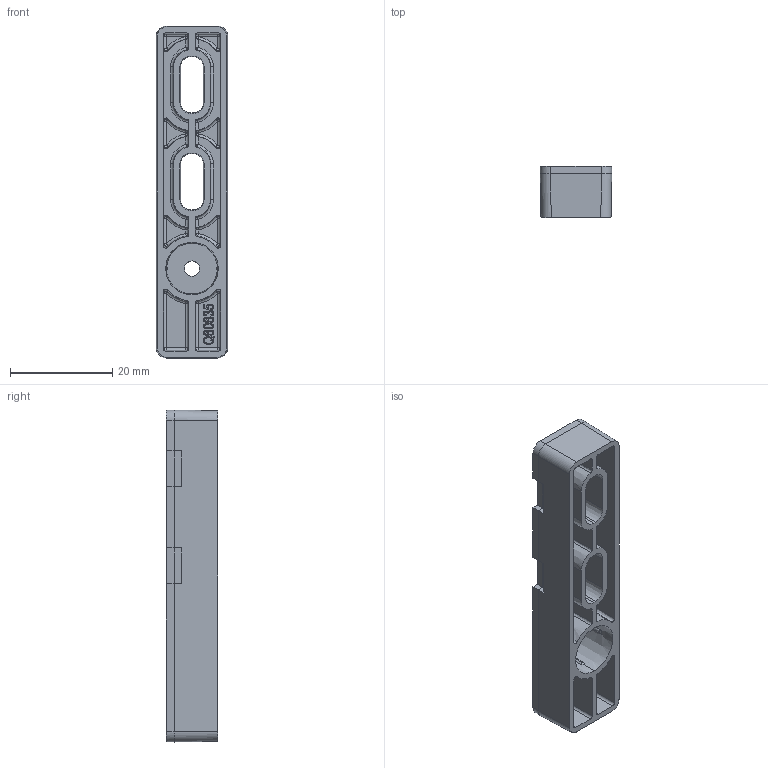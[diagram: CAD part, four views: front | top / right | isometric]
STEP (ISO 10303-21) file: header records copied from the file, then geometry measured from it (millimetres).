
FILE_DESCRIPTION (( 'STEP AP214' ), '1' );
FILE_NAME ('Generic Strike.STEP', '2024-06-10T22:07:28', ( '' ), ( '' ), 'SwSTEP 2.0', 'SolidWorks 2022', '' );
FILE_SCHEMA (( 'AUTOMOTIVE_DESIGN' ));
Length unit declared in the file: millimetre
Products named in the file (1): Generic Strike
Bounding box: 14 x 10 x 65 mm (x, y, z)
Volume: 4268.1 mm3; surface area: 5874 mm2
Topology: 7 solids, 7 shells, 406 faces, 982 edges, 597 vertices
Faces by surface type: plane 123, bspline 108, cylinder 60, sphere 45, cone 40, torus 30
Entity records: 16295 total; most frequent: CARTESIAN_POINT 7507, ORIENTED_EDGE 1964, DIRECTION 1557, EDGE_CURVE 982, VERTEX_POINT 597, AXIS2_PLACEMENT_3D 571, EDGE_LOOP 427, VECTOR 415
